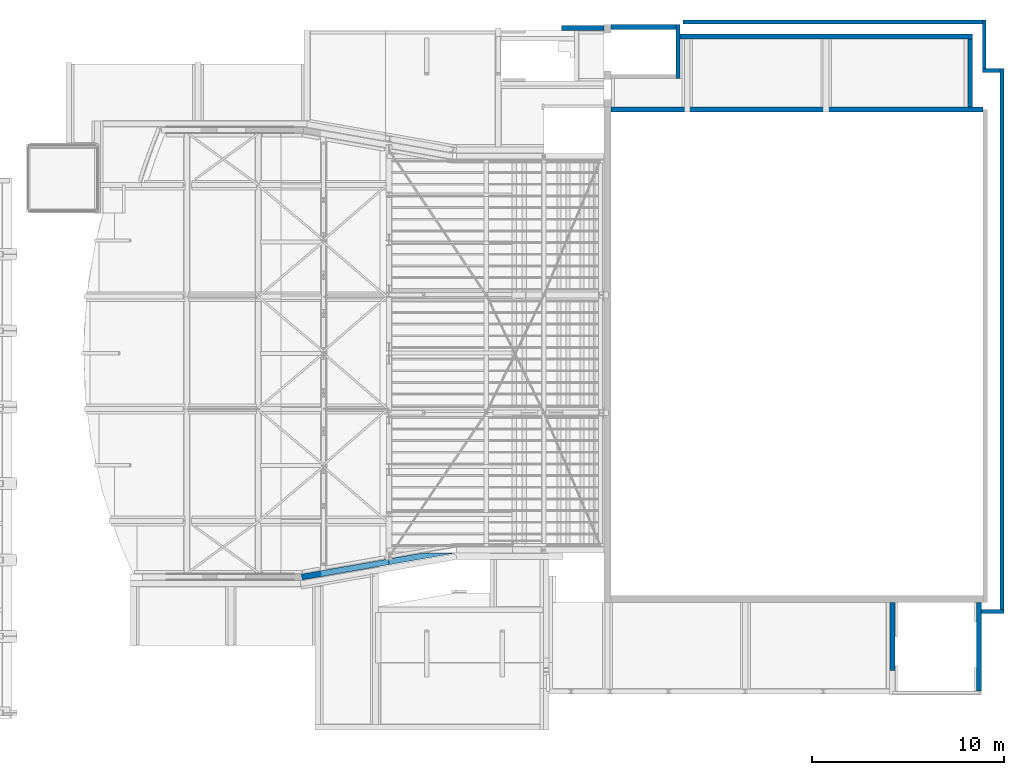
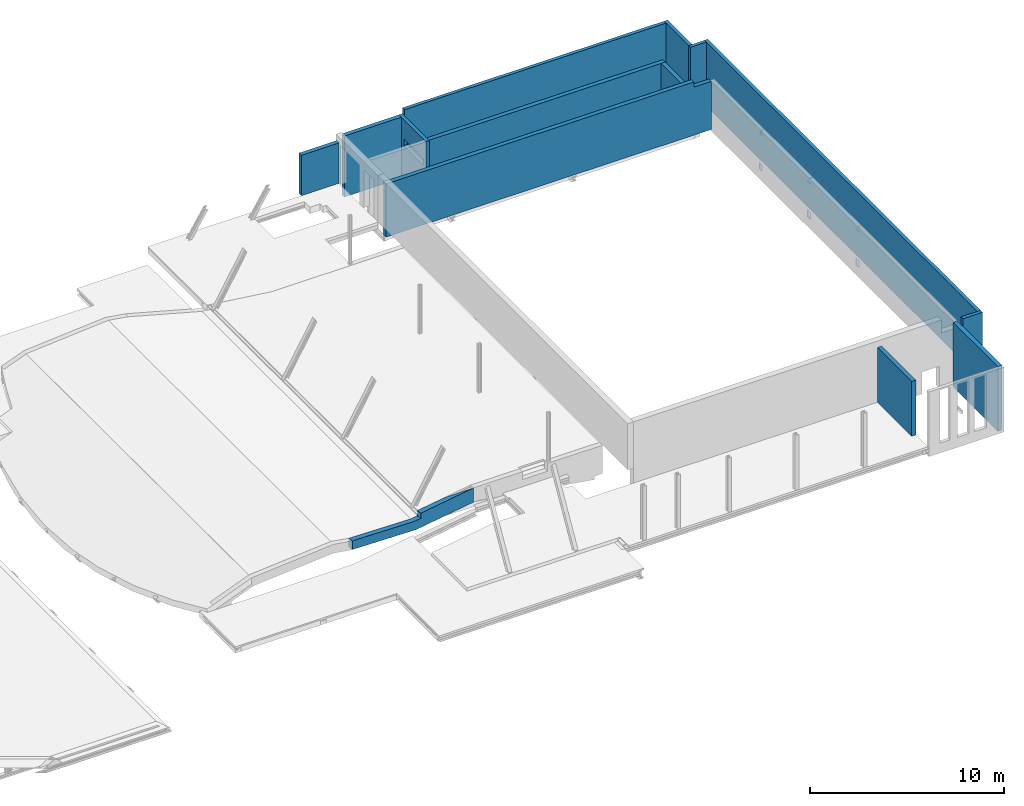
# One storey, part 43 of 50: 14 walls, 1 opening.
"""IFC2X3 building model written with IfcOpenShell, lengths in millimetres."""

from ifc_helpers import new_model, entity, si_unit, converted_unit, derived_unit, direction, frame, frame_2d, origin, place, context, subcontext, project, spatial, polyline, rectangle, outline, extrude, clip, bounded_halfspace, faceted_brep, material, layer, layer_set, layer_usage, type_object, element, save


model = new_model("IFC2X3")

# Units and contexts
model_context = context("Model", 3, precision=0.01, world=origin(), true_north=direction((6.12303176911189e-17, 1.0)))
body_context = subcontext(model_context, "Body", "Model", "MODEL_VIEW")
ifc_project = project(units=[si_unit("LENGTHUNIT", "METRE", prefix="MILLI"), si_unit("AREAUNIT", "SQUARE_METRE", prefix="MILLI"), si_unit("VOLUMEUNIT", "CUBIC_METRE"), converted_unit("PLANEANGLEUNIT", "DEGREE", entity("IfcRatioMeasure", 0.0174532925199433), si_unit("PLANEANGLEUNIT", "RADIAN"), dimensions=[0, 0, 0, 0, 0, 0, 0]), si_unit("MASSUNIT", "GRAM", prefix="KILO"), derived_unit("MASSDENSITYUNIT", [(si_unit("MASSUNIT", "GRAM", prefix="KILO"), 1), (si_unit("LENGTHUNIT", "METRE"), -3)]), derived_unit("MOMENTOFINERTIAUNIT", [(si_unit("LENGTHUNIT", "METRE"), 4)]), si_unit("TIMEUNIT", "SECOND"), si_unit("FREQUENCYUNIT", "HERTZ"), si_unit("THERMODYNAMICTEMPERATUREUNIT", "DEGREE_CELSIUS"), derived_unit("THERMALTRANSMITTANCEUNIT", [(si_unit("MASSUNIT", "GRAM", prefix="KILO"), 1), (si_unit("THERMODYNAMICTEMPERATUREUNIT", "KELVIN"), -1), (si_unit("TIMEUNIT", "SECOND"), -3)]), derived_unit("VOLUMETRICFLOWRATEUNIT", [(si_unit("LENGTHUNIT", "METRE"), 3), (si_unit("TIMEUNIT", "SECOND"), -1)]), si_unit("ELECTRICCURRENTUNIT", "AMPERE"), si_unit("ELECTRICVOLTAGEUNIT", "VOLT"), si_unit("POWERUNIT", "WATT"), si_unit("FORCEUNIT", "NEWTON", prefix="KILO"), si_unit("ILLUMINANCEUNIT", "LUX"), si_unit("LUMINOUSFLUXUNIT", "LUMEN"), si_unit("LUMINOUSINTENSITYUNIT", "CANDELA"), derived_unit("USERDEFINED", [(si_unit("MASSUNIT", "GRAM", prefix="KILO"), -1), (si_unit("LENGTHUNIT", "METRE"), -2), (si_unit("TIMEUNIT", "SECOND"), 3), (si_unit("LUMINOUSFLUXUNIT", "LUMEN"), 1)]), derived_unit("LINEARVELOCITYUNIT", [(si_unit("LENGTHUNIT", "METRE"), 1), (si_unit("TIMEUNIT", "SECOND"), -1)]), si_unit("PRESSUREUNIT", "PASCAL"), derived_unit("USERDEFINED", [(si_unit("LENGTHUNIT", "METRE"), -2), (si_unit("MASSUNIT", "GRAM", prefix="KILO"), 1), (si_unit("TIMEUNIT", "SECOND"), -2)]), derived_unit("LINEARFORCEUNIT", [(si_unit("MASSUNIT", "GRAM", prefix="KILO"), 1), (si_unit("LENGTHUNIT", "METRE"), 1), (si_unit("TIMEUNIT", "SECOND"), -2), (si_unit("LENGTHUNIT", "METRE"), -1)]), derived_unit("PLANARFORCEUNIT", [(si_unit("MASSUNIT", "GRAM", prefix="KILO"), 1), (si_unit("LENGTHUNIT", "METRE"), 1), (si_unit("TIMEUNIT", "SECOND"), -2), (si_unit("LENGTHUNIT", "METRE"), -2)])], contexts=[model_context])

# Site, building, storey
site_placement = place(None, origin())
site = spatial("IfcSite", under=ifc_project, at=site_placement, Name="Theater aan de Parade", CompositionType="ELEMENT")
building_placement = place(site_placement, origin())
building = spatial("IfcBuilding", under=site, at=building_placement, Name="Theater aan de Parade", CompositionType="ELEMENT")
storey_placement = place(building_placement, frame((0.0, 0.0, 15820.0)))
storey = spatial("IfcBuildingStorey", under=building, at=storey_placement, Name="04 vierde verdieping", CompositionType="ELEMENT", Elevation=15820.0)

# Walls
ifc_material_1 = material(Name="00_PBT_MAT_beton t.p.g._C30/37")
ifc_layer_1 = layer(ifc_material_1, 300.0)
ifc_layer_set_1 = layer_set([ifc_layer_1], Name="Basic Wall:28_PBT_WA_beton t.p.g._d=300_C30/37")
wall_type_1 = type_object("IfcWallType", Name="Basic Wall:28_PBT_WA_beton t.p.g._d=300_C30/37", PredefinedType="STANDARD", material=ifc_layer_set_1)
wall_1_placement = place(storey_placement, frame((51597.3117358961, 20780.0, 672.796294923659), z_axis=(0.0, 0.0, 1.0), x_axis=(0.985030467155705, 0.172380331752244, 0.0)))
element("IfcWall", 1, at=wall_1_placement, inside=storey, type_object=wall_type_1, Name="Basic Wall:28_PBT_WA_beton t.p.g._d=300_C30/37", ObjectType="Basic Wall:28_PBT_WA_beton t.p.g._d=300_C30/37", context=body_context, shape_type="Brep", body=[
    faceted_brep([(0.0, -150.0, 674.881237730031), (4325.78582446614, -150.0, 0.0), (8166.56143867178, -150.0, 0.0), (8166.56143867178, -150.0, 897.203705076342), (4609.23157611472, -150.0, 897.203705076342), (4609.23157611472, -150.0, 578.822147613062), (4148.59698294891, -150.0, 578.822147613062), (0.0, -150.0, 1226.05952373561), (0.0, 150.0, 674.881237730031), (0.0, 150.0, 1226.05952373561), (4148.59698294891, 150.0, 578.822147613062), (4609.23157611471, 150.0, 578.822147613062), (4609.23157611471, 150.0, 897.203705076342), (6452.27572438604, 150.0, 897.203705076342), (6452.27572438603, 150.0, 0.0), (4325.78582446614, 150.0, 0.0), (8153.73041051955, -147.754570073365, 897.203705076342), (8153.73041051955, -147.754570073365, 0.0)], [[[0, 1, 2, 3, 4, 5, 6, 7]], [[8, 9, 10, 11, 12, 13, 14, 15]], [[0, 7, 9, 8]], [[4, 3, 16, 13, 12]], [[7, 6, 10, 9]], [[1, 0, 8, 15]], [[2, 1, 15, 14, 17]], [[5, 4, 12, 11]], [[6, 5, 11, 10]], [[3, 2, 17, 14, 13, 16]]]),
])
ifc_layer_2 = layer(ifc_material_1, 250.0)
ifc_layer_set_2 = layer_set([ifc_layer_2], Name="Basic Wall:28_PBT_WA_beton t.p.g._d=250_C30/37")
ifc_layer_usage_1 = layer_usage(ifc_layer_set_2, "AXIS2", "POSITIVE", -125.0)
wall_type_2 = type_object("IfcWallType", Name="Basic Wall:28_PBT_WA_beton t.p.g._d=250_C30/37", PredefinedType="STANDARD", material=ifc_layer_set_2)
wall_2_placement = place(storey_placement, frame((87096.0, 45135.0, 625.0), z_axis=(0.0, 0.0, 1.0), x_axis=(-1.0, 0.0, 0.0)))
element("IfcWallStandardCase", 2, at=wall_2_placement, inside=storey, type_object=wall_type_2, material=ifc_layer_usage_1, Name="Basic Wall:28_PBT_WA_beton t.p.g._d=250_C30/37", ObjectType="Basic Wall:28_PBT_WA_beton t.p.g._d=250_C30/37", context=body_context, shape_type="Clipping", body=[
    clip(clip(clip(extrude(rectangle(XDim=19389.7438990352, YDim=249.999999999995, at=frame_2d((9694.87194951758, -3.14770431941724e-12), x_axis=(-1.0, 0.0))), origin(), (0.0, 0.0, 1.0), 3355.0), bounded_halfspace(frame((0.0, -125.0, 3035.0), z_axis=(0.0, 0.0, -1.0), x_axis=(1.0, 0.0, 0.0)), True, frame((0.0, -125.0, 3035.0)), polyline([(0.0, 0.0), (1041.0, 0.0), (1041.0, 250.0), (0.0, 250.0), (0.0, 125.0), (0.0, 0.0)]))), bounded_halfspace(frame((1041.0, -125.0, 3355.0), z_axis=(0.0, 0.0, -1.0), x_axis=(0.0, 1.0, 0.0)), True, frame((1041.0, -125.0, 3355.0)), polyline([(0.0, 0.0), (18348.7438990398, 0.0), (18348.7438990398, 250.0), (0.0, 250.0), (0.0, 0.0)]))), bounded_halfspace(frame((0.0, -125.0, 3035.0), z_axis=(0.0, 0.0, -1.0), x_axis=(1.0, 0.0, 0.0)), True, frame((0.0, -125.0, 3035.0)), polyline([(0.0, 0.0), (1041.0, 0.0), (1041.0, 250.0), (0.0, 250.0), (0.0, 125.0), (0.0, 0.0)]))),
])
ifc_layer_usage_2 = layer_usage(ifc_layer_set_2, "AXIS2", "POSITIVE", -125.0)
wall_3_placement = place(storey_placement, frame((86555.1683175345, 48947.0, 625.0), z_axis=(0.0, 0.0, 1.0), x_axis=(-1.0, 0.0, 0.0)))
element("IfcWallStandardCase", 3, at=wall_3_placement, inside=storey, type_object=wall_type_2, material=ifc_layer_usage_2, Name="Basic Wall:28_PBT_WA_beton t.p.g._d=250_C30/37", ObjectType="Basic Wall:28_PBT_WA_beton t.p.g._d=250_C30/37", context=body_context, shape_type="Clipping", body=[
    clip(extrude(rectangle(XDim=15248.1683175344, YDim=249.999999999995, at=frame_2d((7624.08415876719, -1.06581410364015e-13), x_axis=(-1.0, 0.0))), origin(), (0.0, 0.0, 1.0), 2130.0), bounded_halfspace(frame((0.0, -125.0, 2130.0), z_axis=(0.0, 0.0, -1.0), x_axis=(1.0, 0.0, 0.0)), True, frame((0.0, -125.0, 2130.0), z_axis=(0.0, 0.0, -1.0), x_axis=(1.0, 0.0, 0.0)), polyline([(0.0, 0.0), (0.0, -250.0), (250.0, -250.0), (15248.1683175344, -250.0), (15248.1683175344, 0.0), (0.0, 0.0)]))),
])
ifc_layer_usage_3 = layer_usage(ifc_layer_set_2, "AXIS2", "NEGATIVE", 125.0)
wall_4_placement = place(storey_placement, frame((86891.0, 19460.0002435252, 0.0), z_axis=(0.0, 0.0, 1.0), x_axis=(0.0, -1.0, 0.0)))
element("IfcWallStandardCase", 4, at=wall_4_placement, inside=storey, type_object=wall_type_2, material=ifc_layer_usage_3, Name="Basic Wall:28_PBT_WA_beton t.p.g._d=250_C30/37", ObjectType="Basic Wall:28_PBT_WA_beton t.p.g._d=250_C30/37", context=body_context, shape_type="SweptSolid", body=[
    extrude(rectangle(XDim=4610.00024352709, YDim=250.000000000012, at=frame_2d((2305.00012176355, 1.49213974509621e-13), x_axis=(-1.0, 0.0))), origin(), (0.0, 0.0, 1.0), 4080.0),
])
ifc_layer_usage_4 = layer_usage(ifc_layer_set_2, "AXIS2", "POSITIVE", -125.0)
wall_5_placement = place(storey_placement, frame((82375.0084217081, 19460.0002435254, 625.0), z_axis=(0.0, 0.0, 1.0), x_axis=(0.0, -1.0, 0.0)))
element("IfcWallStandardCase", 5, at=wall_5_placement, inside=storey, type_object=wall_type_2, material=ifc_layer_usage_4, Name="Basic Wall:28_PBT_WA_beton t.p.g._d=250_C30/37", ObjectType="Basic Wall:28_PBT_WA_beton t.p.g._d=250_C30/37", context=body_context, shape_type="SweptSolid", body=[
    extrude(rectangle(XDim=3535.00024352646, YDim=250.000000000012, at=frame_2d((1767.50012176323, 4.39825953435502e-12), x_axis=(-1.0, 0.0))), origin(), (0.0, 0.0, 1.0), 3455.0),
])
ifc_layer_usage_5 = layer_usage(ifc_layer_set_2, "AXIS2", "NEGATIVE", 125.0)
wall_6_placement = place(storey_placement, frame((65126.11531802, 49386.9979908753, 1570.0)))
element("IfcWallStandardCase", 6, at=wall_6_placement, inside=storey, type_object=wall_type_2, material=ifc_layer_usage_5, Name="Basic Wall:28_PBT_WA_beton t.p.g._d=250_C30/37", ObjectType="Basic Wall:28_PBT_WA_beton t.p.g._d=250_C30/37", context=body_context, shape_type="SweptSolid", body=[
    extrude(rectangle(XDim=2230.14078294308, YDim=249.999999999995, at=frame_2d((1115.07039147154, 2.70006239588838e-12), x_axis=(-1.0, 0.0))), origin(), (0.0, 0.0, 1.0), 2539.99999999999),
])
ifc_layer_usage_6 = layer_usage(ifc_layer_set_2, "AXIS2", "NEGATIVE", 125.0)
wall_7_placement = place(storey_placement, frame((86430.1683175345, 48822.0, 625.0), z_axis=(0.0, 0.0, 1.0), x_axis=(0.0, -1.0, 0.0)))
element("IfcWallStandardCase", 7, at=wall_7_placement, inside=storey, type_object=wall_type_2, material=ifc_layer_usage_6, Name="Basic Wall:28_PBT_WA_beton t.p.g._d=250_C30/37", ObjectType="Basic Wall:28_PBT_WA_beton t.p.g._d=250_C30/37", context=body_context, shape_type="SweptSolid", body=[
    extrude(rectangle(XDim=3561.99999999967, YDim=250.000000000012, at=frame_2d((1780.99999999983, 4.36983782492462e-12), x_axis=(-1.0, 0.0))), origin(), (0.0, 0.0, 1.0), 2130.0),
])
ifc_layer_usage_7 = layer_usage(ifc_layer_set_2, "AXIS2", "NEGATIVE", 125.0)
wall_8_placement = place(storey_placement, frame((71107.0, 49437.0, 545.0), z_axis=(0.0, 0.0, 1.0), x_axis=(-1.0, 0.0, 0.0)))
element("IfcWallStandardCase", 8, at=wall_8_placement, inside=storey, type_object=wall_type_2, material=ifc_layer_usage_7, Name="Basic Wall:28_PBT_WA_beton t.p.g._d=250_C30/37", ObjectType="Basic Wall:28_PBT_WA_beton t.p.g._d=250_C30/37", context=body_context, shape_type="Clipping", body=[
    clip(extrude(rectangle(XDim=3400.74389903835, YDim=249.999999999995, at=frame_2d((1700.37194951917, 1.62003743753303e-12), x_axis=(-1.0, 0.0))), origin(), (0.0, 0.0, 1.0), 3845.00000000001), bounded_halfspace(frame((3400.74389903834, -125.0, 0.0), z_axis=(0.0, 0.0, 1.0), x_axis=(0.0, 1.0, 0.0)), True, frame((3400.74389903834, -125.0, 0.0), z_axis=(0.0, 0.0, 1.0), x_axis=(0.0, 1.0, 0.0)), polyline([(0.0, 0.0), (250.0, 0.0), (250.0, 3400.74389903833), (0.0, 3400.74389903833), (0.0, 0.0)]))),
])

# Wall, opening
ifc_layer_3 = layer(ifc_material_1, 200.0)
ifc_layer_set_3 = layer_set([ifc_layer_3], Name="Basic Wall:28_PBT_WA_beton t.p.g._d=200_C30/37")
ifc_layer_usage_8 = layer_usage(ifc_layer_set_3, "AXIS2", "NEGATIVE", 100.0)
wall_type_3 = type_object("IfcWallType", Name="Basic Wall:28_PBT_WA_beton t.p.g._d=200_C30/37", PredefinedType="STANDARD", material=ifc_layer_set_3)
wall_9_placement = place(storey_placement, frame((71207.0, 46761.8723406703, 535.0), z_axis=(0.0, 0.0, 1.0), x_axis=(0.0, 1.0, 0.0)))
wall_9 = element("IfcWallStandardCase", 9, at=wall_9_placement, inside=storey, type_object=wall_type_3, material=ifc_layer_usage_8, Name="Basic Wall:28_PBT_WA_beton t.p.g._d=200_C30/37", ObjectType="Basic Wall:28_PBT_WA_beton t.p.g._d=200_C30/37", context=body_context, shape_type="SweptSolid", body=[
    extrude(rectangle(XDim=2800.12765932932, YDim=200.000000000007, at=frame_2d((1400.06382966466, 2.30926389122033e-12), x_axis=(-1.0, 0.0))), origin(), (0.0, 0.0, 1.0), 3854.99999999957),
])
opening_placement = place(storey_placement, frame((71207.0, 46761.8723406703, 535.0), z_axis=(0.0, 0.0, 1.0), x_axis=(0.0, 1.0, 0.0)))
element("IfcOpeningElement", 10, at=opening_placement, cuts=wall_9, Name="Basic Wall:28_PBT_WA_beton t.p.g._d=200_C30/37:1", ObjectType="Opening", context=body_context, shape_type="SweptSolid", body=[
    extrude(outline(polyline([(-79.9708436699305, -858.0), (119.883374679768, -858.0), (120.029156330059, 1162.0), (-79.9708436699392, 1162.0), (-79.9708436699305, -608.0), (-79.9708436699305, -858.0)])), frame((1452.12765932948, -20.0291563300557, 2220.0), z_axis=(0.0, 0.0, 1.0), x_axis=(0.0, 1.0, 0.0)), (0.0, 0.0, 1.0), 400.0),
])

# Walls
ifc_material_2 = material(Name="00_PBT_MAT_beton prefab")
ifc_layer_4 = layer(ifc_material_2, 200.0)
ifc_layer_set_4 = layer_set([ifc_layer_4], Name="Basic Wall:28_PBT_WA_beton prefab_d=200")
ifc_layer_usage_9 = layer_usage(ifc_layer_set_4, "AXIS2", "POSITIVE", -100.0)
wall_type_4 = type_object("IfcWallType", Name="Basic Wall:28_PBT_WA_beton prefab_d=200", PredefinedType="STANDARD", material=ifc_layer_set_4)
wall_10_placement = place(storey_placement, frame((87016.0, 18989.9999114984, 535.0)))
element("IfcWallStandardCase", 11, at=wall_10_placement, inside=storey, type_object=wall_type_4, material=ifc_layer_usage_9, Name="Basic Wall:28_PBT_WA_beton prefab_d=200", ObjectType="Basic Wall:28_PBT_WA_beton prefab_d=200", context=body_context, shape_type="SweptSolid", body=[
    extrude(rectangle(XDim=1170.00000000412, YDim=200.000000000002, at=frame_2d((585.000000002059, -1.20792265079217e-13), x_axis=(-1.0, 0.0))), origin(), (0.0, 0.0, 1.0), 4030.0),
])
ifc_layer_usage_10 = layer_usage(ifc_layer_set_4, "AXIS2", "NEGATIVE", 100.0)
wall_11_placement = place(storey_placement, frame((88086.0, 47270.8149236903, 535.0), z_axis=(0.0, 0.0, 1.0), x_axis=(0.0, -1.0, 0.0)))
element("IfcWallStandardCase", 12, at=wall_11_placement, inside=storey, type_object=wall_type_4, material=ifc_layer_usage_10, Name="Basic Wall:28_PBT_WA_beton prefab_d=200", ObjectType="Basic Wall:28_PBT_WA_beton prefab_d=200", context=body_context, shape_type="SweptSolid", body=[
    extrude(rectangle(XDim=28180.815012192, YDim=199.999999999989, at=frame_2d((14090.407506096, -2.63611354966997e-12), x_axis=(-1.0, 0.0))), origin(), (0.0, 0.0, 1.0), 4030.0),
])
ifc_layer_usage_11 = layer_usage(ifc_layer_set_4, "AXIS2", "POSITIVE", -100.0)
wall_12_placement = place(storey_placement, frame((87986.0, 47170.8149236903, 535.0), z_axis=(0.0, 0.0, 1.0), x_axis=(-1.0, 0.0, 0.0)))
element("IfcWallStandardCase", 13, at=wall_12_placement, inside=storey, type_object=wall_type_4, material=ifc_layer_usage_11, Name="Basic Wall:28_PBT_WA_beton prefab_d=200", ObjectType="Basic Wall:28_PBT_WA_beton prefab_d=200", context=body_context, shape_type="SweptSolid", body=[
    extrude(rectangle(XDim=931.00000000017, YDim=200.000000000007, at=frame_2d((465.500000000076, -1.11555209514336e-12), x_axis=(-1.0, 0.0))), origin(), (0.0, 0.0, 1.0), 4030.0),
])
ifc_layer_usage_12 = layer_usage(ifc_layer_set_4, "AXIS2", "NEGATIVE", 100.0)
wall_13_placement = place(storey_placement, frame((87155.0, 49802.0, 535.0), z_axis=(0.0, 0.0, 1.0), x_axis=(0.0, -1.0, 0.0)))
element("IfcWallStandardCase", 14, at=wall_13_placement, inside=storey, type_object=wall_type_4, material=ifc_layer_usage_12, Name="Basic Wall:28_PBT_WA_beton prefab_d=200", ObjectType="Basic Wall:28_PBT_WA_beton prefab_d=200", context=body_context, shape_type="SweptSolid", body=[
    extrude(rectangle(XDim=2531.18507630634, YDim=199.999999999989, at=frame_2d((1265.59253815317, 6.68620714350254e-12), x_axis=(-1.0, 0.0))), origin(), (0.0, 0.0, 1.0), 4030.0),
])
ifc_layer_usage_13 = layer_usage(ifc_layer_set_4, "AXIS2", "POSITIVE", -100.0)
wall_14_placement = place(storey_placement, frame((87055.0, 49702.0, 535.0), z_axis=(0.0, 0.0, 1.0), x_axis=(-1.0, 0.0, 0.0)))
element("IfcWallStandardCase", 15, at=wall_14_placement, inside=storey, type_object=wall_type_4, material=ifc_layer_usage_13, Name="Basic Wall:28_PBT_WA_beton prefab_d=200", ObjectType="Basic Wall:28_PBT_WA_beton prefab_d=200", context=body_context, shape_type="SweptSolid", body=[
    extrude(rectangle(XDim=15598.582194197, YDim=200.000000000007, at=frame_2d((7799.2910970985, -1.96109795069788e-12), x_axis=(-1.0, 0.0))), origin(), (0.0, 0.0, 1.0), 4030.0),
])

save(model, "model.ifc")
